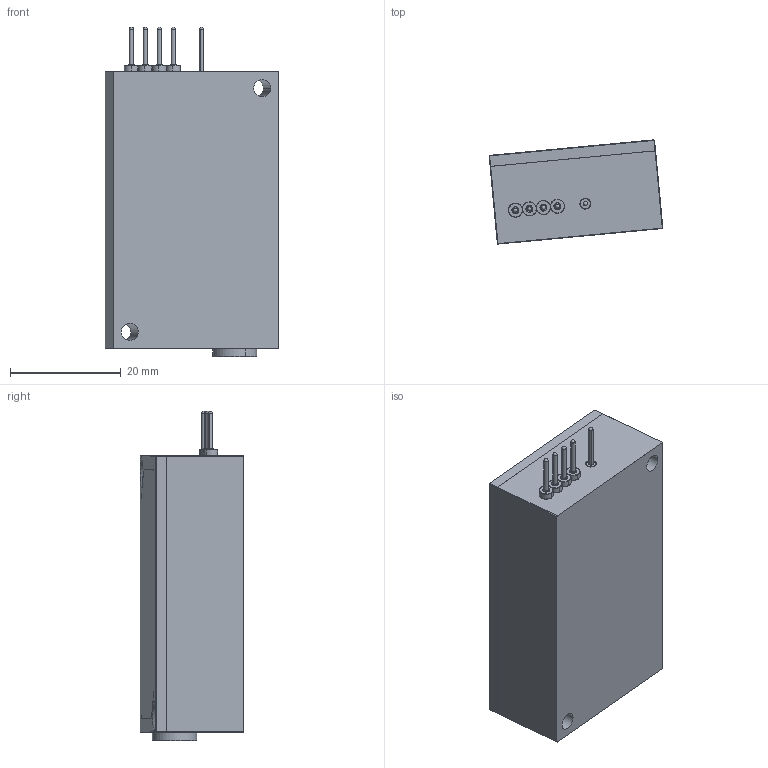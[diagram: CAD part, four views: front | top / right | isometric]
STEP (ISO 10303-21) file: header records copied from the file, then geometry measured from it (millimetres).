
FILE_DESCRIPTION (( 'STEP AP203' ), '1' );
FILE_NAME ('MATCHBOX 2.STEP', '2016-02-03T14:26:39', ( '' ), ( '' ), 'SwSTEP 2.0', 'SolidWorks 2016', '' );
FILE_SCHEMA (( 'CONFIG_CONTROL_DESIGN' ));
Length unit declared in the file: millimetre
Products named in the file (10): Window_1; pin surf; Pin_ground_1; Window mount 6mm_1; MATCHBOX 2; cover1; narrow mb1_1; Sticker; Coating; Pin_1
Assembly tree (16 placements, depth 2):
  MATCHBOX 2
    Pin_1  x4
    Pin_ground_1
    narrow mb1_1
    Window mount 6mm_1
    Window_1
    cover1
    Sticker  x2
    Coating
    pin surf  x4
Bounding box: 31.36 x 18.74 x 59.5 mm (x, y, z)
Volume: 11278.9 mm3; surface area: 15579.2 mm2
Topology: 16 solids, 16 shells, 453 faces, 1016 edges, 571 vertices
Faces by surface type: cylinder 213, plane 112, torus 48, sphere 39, cone 28, bspline 13
Entity records: 10635 total; most frequent: DIRECTION 1830, CARTESIAN_POINT 1628, ORIENTED_EDGE 1490, EDGE_CURVE 745, AXIS2_PLACEMENT_3D 739, VERTEX_POINT 433, CIRCLE 384, EDGE_LOOP 374
